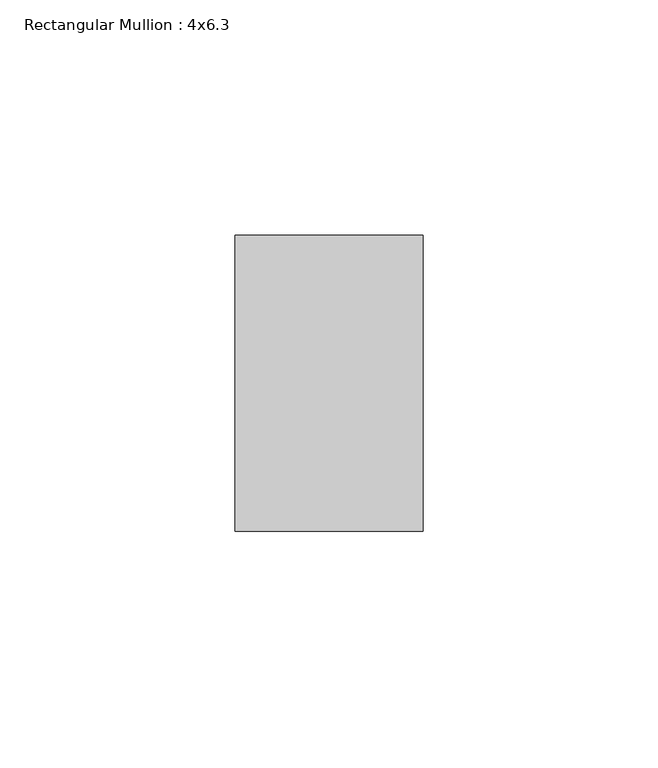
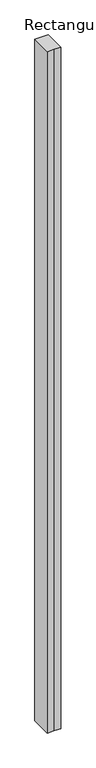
"""IFC4 building model written with IfcOpenShell, lengths in millimetres: member geometry, Rectangular Mullion : 4x6.3."""

from ifc_helpers import new_model, si_unit, frame, origin, place, context, project, spatial, polyline, outline, extrude, source, transform, mapped, element, save


def rectangular_mullion_4x6_3_73d0c5f8(model_context):
    return source(origin(), model_context, "Body", "SweptSolid", [
        extrude(outline(polyline([(-20.0, 20.0), (-20.0, 83.0), (20.0, 83.0), (20.0, 20.0), (0.0, 20.0), (-20.0, 20.0)])), frame((0.0, 0.0, -2141.3859519), z_axis=(0.0, 0.0, 1.0), x_axis=(1.0, 0.0, 0.0)), (0.0, 0.0, 1.0), 2141.3859519),
    ])


if __name__ == "__main__":
    model = new_model("IFC4")
    model_context = context("Model", 3, world=origin())
    ifc_project = project(units=[si_unit("LENGTHUNIT", "METRE", prefix="MILLI")], contexts=[model_context])
    site = spatial("IfcSite", under=ifc_project)
    building = spatial("IfcBuilding", under=site)
    placement = place(None, origin())
    rectangular_mullion_4x6_3_shape = rectangular_mullion_4x6_3_73d0c5f8(model_context)
    element("IfcMember", 1, ObjectType="Rectangular Mullion : 4x6.3", at=placement, inside=building, context=model_context, shape_type="MappedRepresentation", body=[
        mapped(rectangular_mullion_4x6_3_shape, transform((0.0, 0.0, 0.0), x_axis=(1.0, 0.0, 0.0), y_axis=(0.0, 1.0, 0.0), z_axis=(0.0, 0.0, 1.0))),
    ])
    save(model, "model.ifc")
